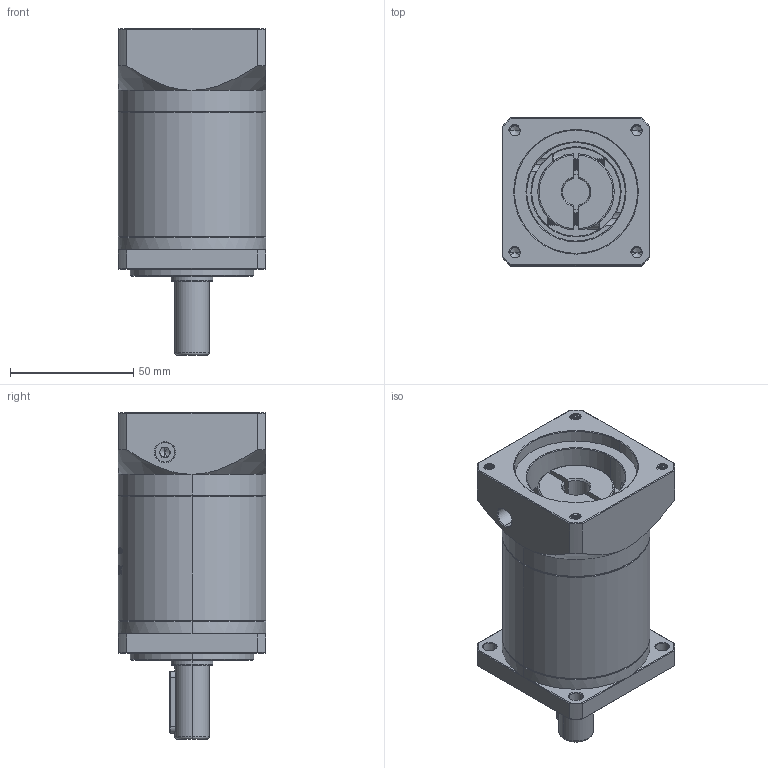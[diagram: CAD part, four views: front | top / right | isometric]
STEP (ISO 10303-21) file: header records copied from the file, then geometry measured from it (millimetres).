
FILE_DESCRIPTION (( 'STEP AP214' ), '1' );
FILE_NAME ('ZF060-D14-L2-P2-11-50-70-M5.step', '2023-08-16T04:23:08', ( '' ), ( '' ), 'SwSTEP 2.0', 'SolidWorks 2016', '' );
FILE_SCHEMA (( 'AUTOMOTIVE_DESIGN' ));
Length unit declared in the file: millimetre
Products named in the file (1): ZF060-D14-L2-P2-11-50-70-M5
Bounding box: 60 x 60 x 132.5 mm (x, y, z)
Volume: 270688.4 mm3; surface area: 47451 mm2
Topology: 6 solids, 6 shells, 1766 faces, 4783 edges, 3100 vertices
Faces by surface type: plane 794, cylinder 364, bspline 354, cone 234, torus 20
Entity records: 101470 total; most frequent: CARTESIAN_POINT 41872, ORIENTED_EDGE 9538, DIRECTION 6826, EDGE_CURVE 4769, VERTEX_POINT 3100, LINE 2426, VECTOR 2426, AXIS2_PLACEMENT_3D 2200
